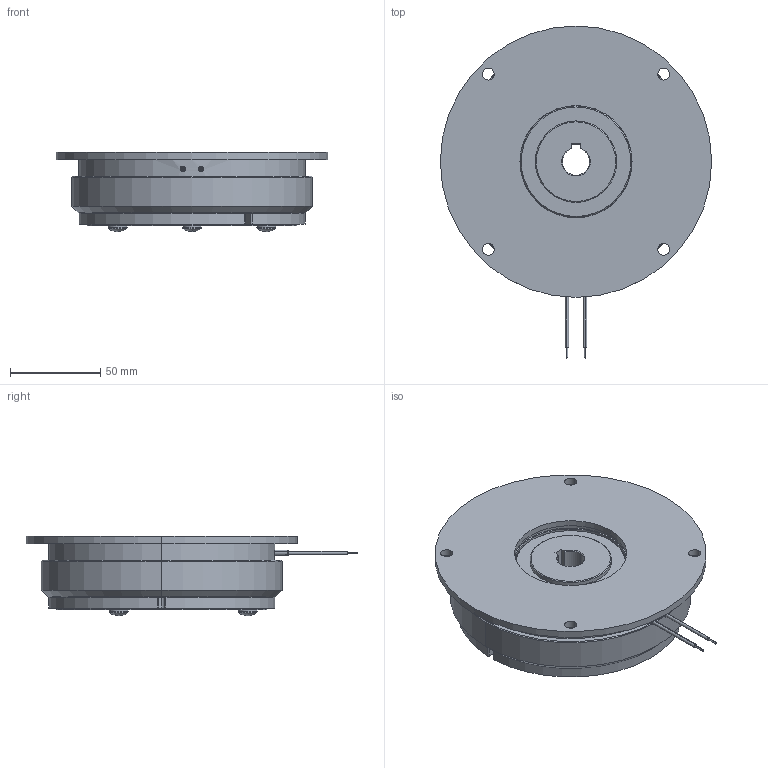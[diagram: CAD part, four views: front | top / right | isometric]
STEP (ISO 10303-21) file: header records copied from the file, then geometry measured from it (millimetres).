
FILE_DESCRIPTION (( 'STEP AP214' ), '1' );
FILE_NAME ('dr_bk_0903-110_mu.STEP', '2021-12-01T08:45:46', ( '' ), ( '' ), 'SwSTEP 2.0', 'SolidWorks 2019', '' );
FILE_SCHEMA (( 'AUTOMOTIVE_DESIGN' ));
Length unit declared in the file: millimetre
Products named in the file (8): dr_bk_0903-110_mu; 10068852_000; 10068853_000_Montagezustand; 10068854_000; 10069132_000; 10069118_000; 10068848_000_eingebaut in 09.P1.010-0177 Ankerteil; 10068851_000
Assembly tree (11 placements, depth 3):
  dr_bk_0903-110_mu
    10069118_000
    10069132_000
    10068852_000
      10068851_000
      10068854_000
      10068853_000_Montagezustand  x3
      10068848_000_eingebaut in 09.P1.010-0177 Ankerteil  x3
Bounding box: 150 x 183.5 x 43.9 mm (x, y, z)
Volume: 485164.6 mm3; surface area: 128100.9 mm2
Topology: 12 solids, 12 shells, 268 faces, 621 edges, 384 vertices
Faces by surface type: cylinder 142, cone 58, plane 46, torus 16, sphere 6
Entity records: 8167 total; most frequent: DIRECTION 1259, CARTESIAN_POINT 1252, ORIENTED_EDGE 1022, AXIS2_PLACEMENT_3D 527, EDGE_CURVE 511, VERTEX_POINT 324, CIRCLE 294, EDGE_LOOP 275
